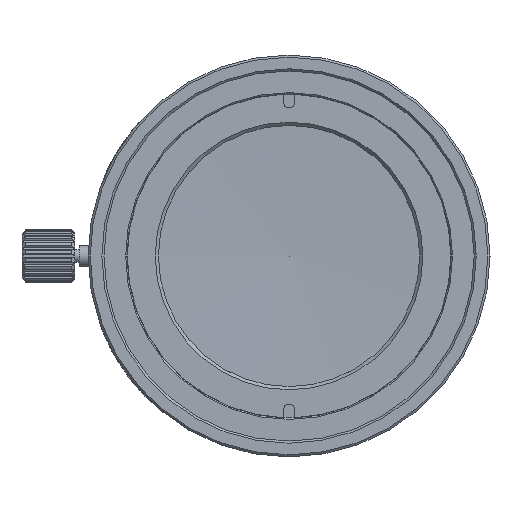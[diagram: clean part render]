
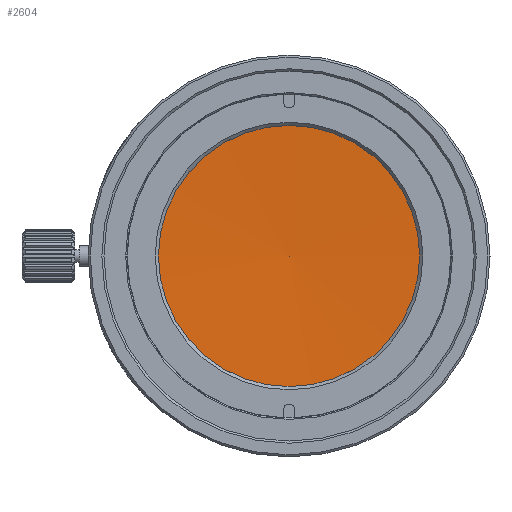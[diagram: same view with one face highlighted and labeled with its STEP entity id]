
A CAD part, left-side view. The second image highlights one B-rep face of the part: STEP entity #2604.
In plain terms, the highlighted spherical face has radius 199.216 mm.
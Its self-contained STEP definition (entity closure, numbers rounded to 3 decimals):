
#206=SPHERICAL_SURFACE('',#16885,199.216);
#1399=CIRCLE('',#16884,12.349);
#2604=ADVANCED_FACE('',(#4012),#206,.F.);
#4012=FACE_OUTER_BOUND('',#4866,.T.);
#4866=EDGE_LOOP('',(#10300));
#10300=ORIENTED_EDGE('',*,*,#14573,.F.);
#12455=VERTEX_POINT('',#33316);
#14573=EDGE_CURVE('',#12455,#12455,#1399,.T.);
#16884=AXIS2_PLACEMENT_3D('',#33315,#19948,#19949);
#16885=AXIS2_PLACEMENT_3D('',#33317,#19950,#19951);
#19948=DIRECTION('',(1.,0.,0.));
#19949=DIRECTION('',(0.,0.,-1.));
#19950=DIRECTION('',(1.,0.,0.));
#19951=DIRECTION('',(0.,-1.,0.));
#33315=CARTESIAN_POINT('',(-71.852,0.,0.));
#33316=CARTESIAN_POINT('',(-71.852,0.,-12.349));
#33317=CARTESIAN_POINT('',(-270.685,0.,0.));
